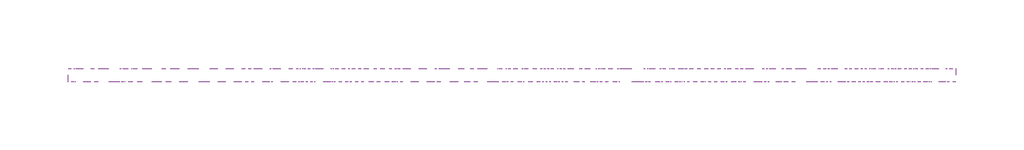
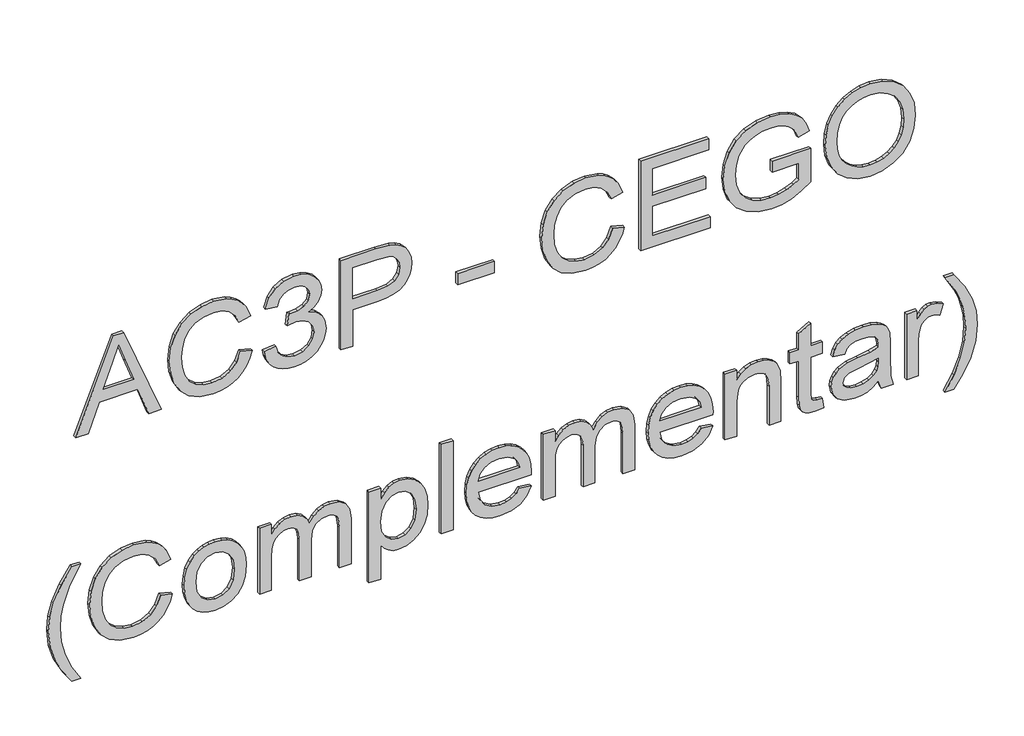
# One storey, part 8 of 12: 1 proxy.
"""IFC4 building model written with IfcOpenShell, lengths in millimetres."""

from ifc_helpers import new_model, si_unit, frame, origin, place, context, project, spatial, polyline, outline, extrude, element, save

model = new_model("IFC4")

# Units and contexts
model_context = context("Model", 3, world=origin())
ifc_project = project(units=[si_unit("LENGTHUNIT", "METRE", prefix="MILLI")], contexts=[model_context])

# Site, building, storey
site = spatial("IfcSite", under=ifc_project)
building = spatial("IfcBuilding", under=site)
storey = spatial("IfcBuildingStorey", under=building, Name="02 - Marelli - Planta Baixa - Painéis Cego", Elevation=12000.0)

# Proxy
placement = place(None, origin())
element("IfcBuildingElementProxy", 1, Name="300mm Arial", ObjectType="300mm Arial", at=placement, inside=storey, context=model_context, shape_type="SweptSolid", body=[
    extrude(outline(polyline([(17965.9244535, 37481.4076008), (17965.9244535, 37521.2124327), (18060.1022443, 37555.6461874), (18060.1022443, 37679.7695726), (17965.9244535, 37714.2769037), (17965.9244535, 37754.0817356), (18267.293384, 37633.7843232), (18267.293384, 37601.7050132), (17965.9244535, 37481.4076008)]), holes=[polyline([(18097.7733606, 37569.4785504), (18178.3395176, 37598.9826865), (18229.6222677, 37617.7446682), (18171.8647944, 37638.8610947), (18097.7733606, 37666.010786), (18097.7733606, 37569.4785504)])]), frame((0.0, 8778.3159498, 0.0), z_axis=(0.0, 1.0, 0.0), x_axis=(0.0, 0.0, 1.0)), (0.0, 0.0, 1.0), 10.0),
    extrude(outline(polyline([(18073.0516905, 38006.2280551), (18040.7884396, 37994.041964), (18017.5750857, 37974.2591097), (18003.5587816, 37948.0567146), (17998.8866803, 37916.6120011), (18002.3171799, 37889.6370538), (18012.6086787, 37864.6302752), (18029.8347531, 37843.771366), (18054.0689796, 37829.2400272), (18084.1617268, 37820.714362), (18118.9633635, 37817.8724736), (18147.3822477, 37820.2729036), (18174.9550032, 37827.4741937), (18199.3455795, 37840.5983838), (18218.2179258, 37860.7675142), (18230.3028494, 37887.3469884), (18234.3311572, 37919.7022098), (18230.6983225, 37947.7716061), (18219.7998184, 37970.617078), (18200.9550632, 37988.4593547), (18173.4834752, 38001.5191656), (18182.4597959, 38039.1902819), (18220.278065, 38022.5528186), (18235.6003501, 38010.7507044), (18248.5314022, 37996.626335), (18258.7999084, 37980.446425), (18266.1345557, 37962.4776888), (18272.0022735, 37921.1737378), (18267.4681279, 37883.3186805), (18253.8656912, 37848.7745612), (18231.526057, 37819.6475042), (18200.7803193, 37798.043634), (18162.8332915, 37784.6619265), (18118.8897871, 37780.2013573), (18077.2271512, 37784.1468917), (18038.3236302, 37795.9834949), (18005.2326447, 37815.370876), (17981.0076153, 37841.9687443), (17966.1635768, 37876.6692135), (17961.215564, 37920.3643974), (17962.8503396, 37942.786805), (17967.7546665, 37963.4065909), (17975.9285445, 37982.2237549), (17987.3719739, 37999.2382972), (18001.9286046, 38014.1145254), (18019.4420868, 38026.5167471), (18039.9124206, 38036.4449625), (18063.3396059, 38043.8991714), (18073.0516905, 38006.2280551)])), frame((0.0, 8778.3159498, 0.0), z_axis=(0.0, 1.0, 0.0), x_axis=(0.0, 0.0, 1.0)), (0.0, 0.0, 1.0), 10.0),
    extrude(outline(polyline([(18045.9755757, 38081.5702877), (18028.0827151, 38084.8214449), (18011.928097, 38090.8960963), (17997.5117213, 38099.7942421), (17984.8335881, 38111.5158821), (17974.5007025, 38125.4953979), (17967.12007, 38141.1671709), (17962.6916905, 38158.5312011), (17961.215564, 38177.5874885), (17962.9446094, 38198.6717253), (17968.1317455, 38217.8521728), (17976.7769724, 38235.128831), (17988.88029, 38250.5016999), (18003.4668111, 38263.1200523), (18019.5616484, 38272.1331612), (18037.1648019, 38277.5410266), (18056.2762716, 38279.3436483), (18083.2420218, 38275.7384048), (18105.2781533, 38264.9226741), (18121.5017493, 38247.4482794), (18131.029893, 38223.8670435), (18141.9008059, 38241.8196848), (18155.9722922, 38254.7691311), (18172.4901938, 38262.6050176), (18190.7003526, 38265.2169797), (18210.2440836, 38262.4670618), (18228.7025627, 38254.2173081), (18244.7238236, 38240.7712211), (18256.9558999, 38222.4323037), (18264.709013, 38200.6812807), (18267.293384, 38176.9988773), (18262.0510656, 38144.1102269), (18246.3241103, 38117.1076885), (18221.0690113, 38097.3708194), (18187.2422618, 38086.2791773), (18182.5333723, 38123.9502936), (18203.134764, 38130.6273518), (18217.8500438, 38142.4179697), (18226.6792117, 38158.5679893), (18229.6222677, 38178.3232525), (18226.7068029, 38198.0417274), (18217.9604084, 38213.7870768), (18204.7626419, 38224.1061668), (18188.4930606, 38227.5458634), (18168.9585267, 38222.8001857), (18155.2365283, 38208.5631525), (18147.1247303, 38188.384825), (18144.4207976, 38165.8152646), (18144.862256, 38159.7819999), (18107.1911397, 38155.5881452), (18111.311418, 38182.0020724), (18107.4578541, 38205.6936729), (18095.8971624, 38224.8235366), (18078.4503588, 38237.4602832), (18056.9384591, 38241.672532), (18034.2769282, 38237.423495), (18015.5885229, 38224.6763838), (18003.0621409, 38204.7371797), (17998.8866803, 38178.9118636), (18001.9217068, 38156.9033233), (18011.0267861, 38140.0267368), (18027.0112588, 38127.6750988), (18050.6844652, 38119.241404), (18045.9755757, 38081.5702877)])), frame((0.0, 8778.3159498, 0.0), z_axis=(0.0, 1.0, 0.0), x_axis=(0.0, 0.0, 1.0)), (0.0, 0.0, 1.0), 10.0),
    extrude(outline(polyline([(17965.9244535, 38326.4325437), (17965.9244535, 38364.10366), (18088.3555815, 38364.10366), (18088.3555815, 38440.6966914), (18090.0202476, 38469.8950255), (18095.0142456, 38494.2143247), (18103.3375758, 38513.6545888), (18114.990238, 38528.2158181), (18129.0479287, 38538.8223158), (18144.5863445, 38546.3983857), (18161.6054853, 38550.9440276), (18180.1053511, 38552.4592416), (18201.5620685, 38550.2151614), (18221.19777, 38543.4829209), (18237.8444303, 38533.0626634), (18250.334024, 38519.7545322), (18259.0620243, 38503.2274335), (18264.4239044, 38483.1502737), (18267.293384, 38438.1215175), (18267.293384, 38326.4325437), (17965.9244535, 38326.4325437)]), holes=[polyline([(18126.0266978, 38364.10366), (18229.6222677, 38364.10366), (18229.6222677, 38442.0210666), (18227.0470937, 38479.6921829), (18220.7195234, 38493.9200191), (18209.9773691, 38505.1128288), (18195.7035477, 38512.3693011), (18178.7809759, 38514.7881252), (18156.5057211, 38510.686241), (18139.8590609, 38498.3805883), (18129.4847886, 38476.3076685), (18126.0266978, 38442.9039834), (18126.0266978, 38364.10366)])]), frame((0.0, 8778.3159498, 0.0), z_axis=(0.0, 1.0, 0.0), x_axis=(0.0, 0.0, 1.0)), (0.0, 0.0, 1.0), 10.0),
    extrude(outline(polyline([(38816.1570557, 8778.3159498), (38698.4348172, 8778.3159498), (38698.4348172, 8788.3159498), (38816.1570557, 8788.3159498), (38816.1570557, 8778.3159498)])), frame((0.0, 0.0, 18055.3933548), z_axis=(0.0, 0.0, 1.0), x_axis=(1.0, 0.0, 0.0)), (0.0, 0.0, 1.0), 37.6711163),
    extrude(outline(polyline([(18073.0516905, 39192.8682188), (18040.7884396, 39180.6821277), (18017.5750857, 39160.8992734), (18003.5587816, 39134.6968783), (17998.8866803, 39103.2521647), (18002.3171799, 39076.2772174), (18012.6086787, 39051.2704388), (18029.8347531, 39030.4115297), (18054.0689796, 39015.8801909), (18084.1617268, 39007.3545256), (18118.9633635, 39004.5126372), (18147.3822477, 39006.9130672), (18174.9550032, 39014.1143573), (18199.3455795, 39027.2385475), (18218.2179258, 39047.4076779), (18230.3028494, 39073.987152), (18234.3311572, 39106.3423735), (18230.6983225, 39134.4117697), (18219.7998184, 39157.2572416), (18200.9550632, 39175.0995184), (18173.4834752, 39188.1593292), (18182.4597959, 39225.8304455), (18220.278065, 39209.1929823), (18235.6003501, 39197.390868), (18248.5314022, 39183.2664987), (18258.7999084, 39167.0865887), (18266.1345557, 39149.1178525), (18272.0022735, 39107.8139015), (18267.4681279, 39069.9588442), (18253.8656912, 39035.4147248), (18231.526057, 39006.2876679), (18200.7803193, 38984.6837977), (18162.8332915, 38971.3020901), (18118.8897871, 38966.8415209), (18077.2271512, 38970.7870553), (18038.3236302, 38982.6236585), (18005.2326447, 39002.0110397), (17981.0076153, 39028.6089079), (17966.1635768, 39063.3093771), (17961.215564, 39107.0045611), (17962.8503396, 39129.4269687), (17967.7546665, 39150.0467545), (17975.9285445, 39168.8639186), (17987.3719739, 39185.8784608), (18001.9286046, 39200.754689), (18019.4420868, 39213.1569108), (18039.9124206, 39223.0851261), (18063.3396059, 39230.5393351), (18073.0516905, 39192.8682188)])), frame((0.0, 8778.3159498, 0.0), z_axis=(0.0, 1.0, 0.0), x_axis=(0.0, 0.0, 1.0)), (0.0, 0.0, 1.0), 10.0),
    extrude(outline(polyline([(17965.9244535, 39282.33712), (17965.9244535, 39503.6549283), (18003.5955698, 39503.6549283), (18003.5955698, 39320.0082363), (18102.4822501, 39320.0082363), (18102.4822501, 39489.5282597), (18140.1533665, 39489.5282597), (18140.1533665, 39320.0082363), (18229.6222677, 39320.0082363), (18229.6222677, 39498.9460387), (18267.293384, 39498.9460387), (18267.293384, 39282.33712), (17965.9244535, 39282.33712)])), frame((0.0, 8778.3159498, 0.0), z_axis=(0.0, 1.0, 0.0), x_axis=(0.0, 0.0, 1.0)), (0.0, 0.0, 1.0), 10.0),
    extrude(outline(polyline([(18083.646692, 39701.4282889), (18083.646692, 39786.1883006), (18029.2001567, 39786.1883006), (18018.55917, 39770.1394485), (18008.5619768, 39748.0389377), (18001.3055044, 39722.5907007), (17998.8866803, 39696.4986702), (18002.0964507, 39666.9485489), (18011.7257619, 39639.0722907), (18027.967752, 39615.2519315), (18051.015559, 39597.8695072), (18080.6576508, 39587.2469146), (18116.6824952, 39583.7060504), (18147.4006418, 39586.6491064), (18175.83792, 39595.4782743), (18204.8638094, 39614.8656554), (18216.8015801, 39629.3050237), (18226.2009651, 39647.6807294), (18232.2986092, 39669.909999), (18234.3311572, 39695.910059), (18232.445762, 39718.1209344), (18226.7895763, 39738.2532766), (18217.9971966, 39755.1390602), (18206.7032194, 39767.6102598), (18191.7212251, 39777.0372359), (18171.8647944, 39784.790349), (18181.6504555, 39819.5184093), (18209.4899255, 39809.9258863), (18231.4984659, 39796.7465138), (18248.494614, 39778.9318282), (18261.2969075, 39755.4333658), (18269.325932, 39727.5295164), (18272.0022735, 39696.4986702), (18267.3853545, 39654.2290289), (18253.5345974, 39617.183312), (18230.1832877, 39586.768668), (18197.0647111, 39564.3922457), (18157.581776, 39550.624262), (18115.1373908, 39546.0349341), (18072.9965082, 39550.6426561), (18035.0126922, 39564.4658221), (18003.3472495, 39587.3296881), (17980.1614867, 39619.0595102), (17965.9520447, 39657.2548583), (17961.215564, 39699.5153025), (17964.1954082, 39731.8613269), (17973.1349406, 39763.4164051), (17987.9789791, 39794.1069605), (18008.6723414, 39823.8594169), (18121.3178083, 39823.8594169), (18121.3178083, 39701.4282889), (18083.646692, 39701.4282889)])), frame((0.0, 8778.3159498, 0.0), z_axis=(0.0, 1.0, 0.0), x_axis=(0.0, 0.0, 1.0)), (0.0, 0.0, 1.0), 10.0),
    extrude(outline(polyline([(18112.6357932, 39870.9483123), (18074.0909572, 39875.2525316), (18037.6246544, 39888.1651896), (18005.9316205, 39909.428769), (17981.7065911, 39938.7857522), (17966.3383208, 39974.4335175), (17961.215564, 40014.5694432), (17965.8508771, 40052.3785152), (17979.7568166, 40087.5204428), (18002.6758649, 40117.4844313), (18034.3505046, 40139.7596861), (18072.8125672, 40153.5828521), (18116.093884, 40158.1905741), (18158.8049836, 40153.8127784), (18196.7336173, 40140.6793911), (18228.3530748, 40119.1950826), (18252.1366458, 40089.764523), (18267.0358666, 40054.3190928), (18272.0022735, 40014.7901724), (18269.3581217, 39984.4996886), (18261.4256662, 39957.1246696), (18248.204907, 39932.6651155), (18229.6958441, 39911.1210261), (18206.5146799, 39893.5454638), (18179.2776166, 39880.9914907), (18147.9846544, 39873.4591069), (18112.6357932, 39870.9483123)]), holes=[polyline([(18112.2679112, 39908.6194286), (18142.8044161, 39910.5829987), (18168.6366299, 39916.4737092), (18189.7645528, 39926.2915599), (18206.1881846, 39940.036551), (18218.5007351, 39956.5038688), (18227.2954141, 39974.4886998), (18232.5722214, 39993.9910441), (18234.3311572, 40015.0109016), (18230.6799284, 40044.1747467), (18219.726242, 40070.3035655), (18202.1322856, 40091.9626179), (18178.5602467, 40107.7171644), (18149.7366924, 40117.3188844), (18116.3881896, 40120.5194578), (18089.8501021, 40118.6501574), (18066.5217851, 40113.0422562), (18046.4032385, 40103.6957543), (18029.4944623, 40090.6106516), (18016.1035577, 40074.6284782), (18006.5386258, 40056.5907641), (18000.7996667, 40036.4975094), (17998.8866803, 40014.348714), (18000.7812726, 39992.5723991), (18006.4650494, 39972.7136692), (18015.9380108, 39954.7725241), (18029.2001567, 39938.748964), (18045.759445, 39925.5672922), (18065.1238335, 39916.1518124), (18087.2933223, 39910.5025245), (18112.2679112, 39908.6194286)])]), frame((0.0, 8778.3159498, 0.0), z_axis=(0.0, 1.0, 0.0), x_axis=(0.0, 0.0, 1.0)), (0.0, 0.0, 1.0), 10.0),
    extrude(outline(polyline([(17149.3155348, 37469.4146478), (17149.3155348, 37497.667985), (17197.5540614, 37468.8260366), (17245.8109821, 37448.2246448), (17294.0862969, 37435.8638098), (17342.3800058, 37431.7435314), (17380.2534572, 37434.1163703), (17417.9429677, 37441.2348869), (17475.7740173, 37462.4248898), (17535.4444769, 37497.667985), (17535.4444769, 37469.4146478), (17484.934279, 37434.7233756), (17434.2033518, 37410.4063757), (17389.4137189, 37398.1559053), (17342.600735, 37394.0724151), (17289.2210575, 37399.5354628), (17237.68079, 37415.9246057), (17190.2791949, 37440.2232114), (17149.3155348, 37469.4146478)])), frame((0.0, 8778.3159498, 0.0), z_axis=(0.0, 1.0, 0.0), x_axis=(0.0, 0.0, 1.0)), (0.0, 0.0, 1.0), 10.0),
    extrude(outline(polyline([(17341.2027835, 37751.94802), (17308.9395325, 37739.761929), (17285.7261786, 37719.9790747), (17271.7098746, 37693.7766796), (17267.0377732, 37662.331966), (17270.4682728, 37635.3570187), (17280.7597717, 37610.3502401), (17297.9858461, 37589.491331), (17322.2200725, 37574.9599922), (17352.3128197, 37566.4343269), (17387.1144565, 37563.5924385), (17415.5333406, 37565.9928685), (17443.1060961, 37573.1941586), (17467.4966724, 37586.3183488), (17486.3690188, 37606.4874792), (17498.4539423, 37633.0669533), (17502.4822501, 37665.4221748), (17498.8494154, 37693.491571), (17487.9509113, 37716.3370429), (17469.1061561, 37734.1793197), (17441.6345681, 37747.2391305), (17450.6108888, 37784.9102468), (17488.4291579, 37768.2727836), (17503.751443, 37756.4706693), (17516.6824952, 37742.3463), (17526.9510013, 37726.16639), (17534.2856486, 37708.1976538), (17540.1533665, 37666.8937028), (17535.6192209, 37629.0386455), (17522.0167841, 37594.4945261), (17499.6771499, 37565.3674691), (17468.9314122, 37543.763599), (17430.9843844, 37530.3818914), (17387.0408801, 37525.9213222), (17345.3782441, 37529.8668566), (17306.4747231, 37541.7034598), (17273.3837376, 37561.0908409), (17249.1587083, 37587.6887092), (17234.3146698, 37622.3891784), (17229.3666569, 37666.0843624), (17231.0014325, 37688.50677), (17235.9057594, 37709.1265558), (17244.0796375, 37727.9437199), (17255.5230668, 37744.9582621), (17270.0796975, 37759.8344903), (17287.5931797, 37772.2367121), (17308.0635135, 37782.1649274), (17331.4906988, 37789.6191364), (17341.2027835, 37751.94802)])), frame((0.0, 8778.3159498, 0.0), z_axis=(0.0, 1.0, 0.0), x_axis=(0.0, 0.0, 1.0)), (0.0, 0.0, 1.0), 10.0),
    extrude(outline(polyline([(17344.7344506, 37827.2902527), (17318.4124939, 37828.9986047), (17295.3646869, 37834.1236607), (17275.5910296, 37842.6654208), (17259.0915221, 37854.6238849), (17246.0868936, 37869.350661), (17236.7978732, 37886.1973571), (17231.224461, 37905.1639733), (17229.3666569, 37926.2505094), (17232.7419742, 37952.8391806), (17242.8679261, 37977.2757421), (17259.1007192, 37997.8495427), (17280.7965599, 38012.849931), (17309.767267, 38022.0101927), (17347.8246594, 38025.0636133), (17372.7049786, 38023.3368672), (17394.7388108, 38018.1566288), (17413.9261561, 38009.5228982), (17430.2670145, 37997.4356754), (17443.3199275, 37982.6261259), (17452.6434368, 37965.825415), (17458.2375424, 37947.0335428), (17460.1022443, 37926.2505094), (17458.5709355, 37907.4241483), (17453.9770091, 37890.0877092), (17446.3204651, 37874.2411923), (17435.6013034, 37859.8845974), (17418.830483, 37845.6245716), (17398.095734, 37835.4388389), (17373.3970566, 37829.3273992), (17344.7344506, 37827.2902527)]), holes=[polyline([(17344.808027, 37864.961369), (17378.8830968, 37869.3207706), (17403.1173232, 37882.3989755), (17417.6026768, 37902.0806623), (17422.431128, 37926.2505094), (17417.5842827, 37950.1720361), (17403.0437468, 37969.8445258), (17379.0854319, 37983.0055042), (17345.9852494, 37987.392497), (17311.1468245, 37983.0330953), (17286.535519, 37969.9548904), (17271.9122097, 37950.3099918), (17267.0377732, 37926.2505094), (17271.8846185, 37902.0806623), (17286.4251544, 37882.3989755), (17310.7145631, 37869.3207706), (17344.808027, 37864.961369)])]), frame((0.0, 8778.3159498, 0.0), z_axis=(0.0, 1.0, 0.0), x_axis=(0.0, 0.0, 1.0)), (0.0, 0.0, 1.0), 10.0),
    extrude(outline(polyline([(17234.0755465, 38067.4436191), (17234.0755465, 38105.1147354), (17345.6909438, 38105.1147354), (17371.6082304, 38106.5494752), (17390.6461236, 38110.8536945), (17404.368122, 38118.3584872), (17414.3377241, 38129.3949471), (17420.407777, 38142.7674576), (17422.431128, 38157.2804023), (17419.3961015, 38174.359324), (17410.2910222, 38185.8648334), (17395.0974958, 38192.4039358), (17373.7971282, 38194.5836366), (17234.0755465, 38194.5836366), (17234.0755465, 38232.2547529), (17359.008272, 38232.2547529), (17387.7214617, 38235.94277), (17407.3479662, 38247.006821), (17418.6603375, 38263.6442842), (17422.431128, 38284.0525379), (17420.9596, 38295.6132296), (17416.5450161, 38305.5736346), (17409.7300021, 38313.3175506), (17401.0571841, 38318.2287752), (17369.6032735, 38321.7236542), (17234.0755465, 38321.7236542), (17234.0755465, 38359.3947705), (17385.7900813, 38359.3947705), (17418.7615051, 38355.0813541), (17441.8920855, 38342.1411049), (17455.5497046, 38321.1994223), (17460.1022443, 38292.8817058), (17457.366122, 38273.3563689), (17449.1577549, 38255.7624124), (17435.4771432, 38240.0998365), (17416.3242869, 38226.368641), (17434.7643719, 38218.1648725), (17448.5875379, 38205.6200965), (17457.2235677, 38188.8262834), (17460.1022443, 38167.8754038), (17457.27875, 38148.3224757), (17448.808267, 38131.0136279), (17435.702471, 38116.4455009), (17418.9730372, 38105.1147354), (17455.3933548, 38105.1147354), (17455.3933548, 38067.4436191), (17234.0755465, 38067.4436191)])), frame((0.0, 8778.3159498, 0.0), z_axis=(0.0, 1.0, 0.0), x_axis=(0.0, 0.0, 1.0)), (0.0, 0.0, 1.0), 10.0),
    extrude(outline(polyline([(17149.3155348, 38415.9014449), (17149.3155348, 38453.5725612), (17263.5061061, 38453.5725612), (17249.9956398, 38464.213548), (17239.0419534, 38477.4481027), (17231.785481, 38492.9083436), (17229.3666569, 38510.2263885), (17232.9810975, 38534.6445559), (17243.8244193, 38557.8671069), (17261.4459669, 38577.806311), (17285.3950848, 38592.374438), (17314.2094421, 38601.2863794), (17346.4267078, 38604.2570265), (17376.7217901, 38601.6266702), (17404.4784866, 38593.7356014), (17427.9861461, 38580.6757906), (17445.5341173, 38562.5392082), (17456.4602125, 38540.2639534), (17460.1022443, 38514.7881252), (17457.4994792, 38495.6582615), (17449.6911838, 38479.6186065), (17436.6773583, 38465.8598199), (17418.4580024, 38453.5725612), (17455.3933548, 38453.5725612), (17455.3933548, 38415.9014449), (17149.3155348, 38415.9014449)]), holes=[polyline([(17342.968617, 38453.5725612), (17377.1356573, 38457.9227658), (17402.0872537, 38470.9733796), (17417.3451594, 38489.670982), (17422.431128, 38510.9621525), (17417.6486621, 38532.1705495), (17403.3012642, 38550.1783732), (17379.3521464, 38562.4840259), (17345.7645202, 38566.5859102), (17310.7237602, 38562.3828584), (17286.2412134, 38549.773703), (17271.8386333, 38531.2784357), (17267.0377732, 38509.4170481), (17271.6730864, 38487.9051484), (17285.5790258, 38469.8697336), (17309.1970499, 38457.6468543), (17342.968617, 38453.5725612)])]), frame((0.0, 8778.3159498, 0.0), z_axis=(0.0, 1.0, 0.0), x_axis=(0.0, 0.0, 1.0)), (0.0, 0.0, 1.0), 10.0),
    extrude(outline(polyline([(38684.3081486, 8778.3159498), (38646.6370323, 8778.3159498), (38646.6370323, 8788.3159498), (38684.3081486, 8788.3159498), (38684.3081486, 8778.3159498)])), frame((0.0, 0.0, 17234.0755465), z_axis=(0.0, 0.0, 1.0), x_axis=(1.0, 0.0, 0.0)), (0.0, 0.0, 1.0), 301.3689304),
    extrude(outline(polyline([(17300.0, 38895.7667195), (17285.1191733, 38885.2085062), (17274.9104479, 38871.4865078), (17269.0059419, 38854.6007242), (17267.0377732, 38834.5511555), (17271.2868103, 38807.8889079), (17284.0339214, 38786.0275203), (17304.7640718, 38770.8799791), (17332.9622268, 38764.3592708), (17332.9622268, 38933.658565), (17343.1157698, 38933.8792942), (17369.3687487, 38932.0927672), (17392.5039277, 38926.7331864), (17412.5213067, 38917.8005517), (17429.4208859, 38905.2948631), (17442.8439802, 38889.9748773), (17452.4319047, 38872.5993508), (17458.1846594, 38853.1682837), (17460.1022443, 38831.6816759), (17458.1800609, 38809.4799975), (17452.4135106, 38789.4488228), (17442.8025935, 38771.588152), (17429.3473095, 38755.8979849), (17412.4109422, 38743.1186841), (17392.3567749, 38733.9906121), (17369.1848077, 38728.5137689), (17342.8950406, 38726.6881545), (17317.467497, 38728.4953748), (17295.0427901, 38733.9170357), (17275.62092, 38742.9531372), (17259.2018867, 38755.6036793), (17246.1489737, 38771.3352331), (17236.8254644, 38789.6143697), (17231.2313588, 38810.4410892), (17229.3666569, 38833.8153915), (17233.6892704, 38869.4723538), (17246.6571107, 38898.1579524), (17267.4608375, 38919.3939406), (17295.2911105, 38932.7020718), (17300.0, 38895.7667195)]), holes=[polyline([(17370.6333431, 38764.3592708), (17391.8693312, 38770.5488853), (17408.3412476, 38785.1446035), (17418.9086579, 38806.1414684), (17422.431128, 38831.5345231), (17418.0165441, 38859.1624609), (17404.7727922, 38881.125016), (17390.535759, 38891.1130122), (17370.6333431, 38896.2081778), (17370.6333431, 38764.3592708)])]), frame((0.0, 8778.3159498, 0.0), z_axis=(0.0, 1.0, 0.0), x_axis=(0.0, 0.0, 1.0)), (0.0, 0.0, 1.0), 10.0),
    extrude(outline(polyline([(17234.0755465, 38971.5504105), (17234.0755465, 39009.2215268), (17345.6909438, 39009.2215268), (17371.6082304, 39010.6562665), (17390.6461236, 39014.9604859), (17404.368122, 39022.4652786), (17414.3377241, 39033.5017384), (17420.407777, 39046.874249), (17422.431128, 39061.3871937), (17419.3961015, 39078.4661153), (17410.2910222, 39089.9716247), (17395.0974958, 39096.5107272), (17373.7971282, 39098.690428), (17234.0755465, 39098.690428), (17234.0755465, 39136.3615443), (17359.008272, 39136.3615443), (17387.7214617, 39140.0495613), (17407.3479662, 39151.1136123), (17418.6603375, 39167.7510755), (17422.431128, 39188.1593292), (17420.9596, 39199.7200209), (17416.5450161, 39209.6804259), (17409.7300021, 39217.4243419), (17401.0571841, 39222.3355666), (17369.6032735, 39225.8304455), (17234.0755465, 39225.8304455), (17234.0755465, 39263.5015618), (17385.7900813, 39263.5015618), (17418.7615051, 39259.1881454), (17441.8920855, 39246.2478963), (17455.5497046, 39225.3062137), (17460.1022443, 39196.9884971), (17457.366122, 39177.4631602), (17449.1577549, 39159.8692038), (17435.4771432, 39144.2066278), (17416.3242869, 39130.4754324), (17434.7643719, 39122.2716639), (17448.5875379, 39109.7268878), (17457.2235677, 39092.9330748), (17460.1022443, 39071.9821951), (17457.27875, 39052.4292671), (17448.808267, 39035.1204192), (17435.702471, 39020.5522922), (17418.9730372, 39009.2215268), (17455.3933548, 39009.2215268), (17455.3933548, 38971.5504105), (17234.0755465, 38971.5504105)])), frame((0.0, 8778.3159498, 0.0), z_axis=(0.0, 1.0, 0.0), x_axis=(0.0, 0.0, 1.0)), (0.0, 0.0, 1.0), 10.0),
    extrude(outline(polyline([(17300.0, 39474.9601327), (17285.1191733, 39464.4019194), (17274.9104479, 39450.679921), (17269.0059419, 39433.7941374), (17267.0377732, 39413.7445687), (17271.2868103, 39387.0823211), (17284.0339214, 39365.2209335), (17304.7640718, 39350.0733923), (17332.9622268, 39343.552684), (17332.9622268, 39512.8519782), (17343.1157698, 39513.0727074), (17369.3687487, 39511.2861804), (17392.5039277, 39505.9265996), (17412.5213067, 39496.9939649), (17429.4208859, 39484.4882763), (17442.8439802, 39469.1682905), (17452.4319047, 39451.792764), (17458.1846594, 39432.3616969), (17460.1022443, 39410.8750891), (17458.1800609, 39388.6734107), (17452.4135106, 39368.6422361), (17442.8025935, 39350.7815652), (17429.3473095, 39335.0913981), (17412.4109422, 39322.3120973), (17392.3567749, 39313.1840253), (17369.1848077, 39307.7071821), (17342.8950406, 39305.8815677), (17317.467497, 39307.688788), (17295.0427901, 39313.1104489), (17275.62092, 39322.1465504), (17259.2018867, 39334.7970925), (17246.1489737, 39350.5286463), (17236.8254644, 39368.8077829), (17231.2313588, 39389.6345024), (17229.3666569, 39413.0088047), (17233.6892704, 39448.6657671), (17246.6571107, 39477.3513656), (17267.4608375, 39498.5873538), (17295.2911105, 39511.895485), (17300.0, 39474.9601327)]), holes=[polyline([(17370.6333431, 39343.552684), (17391.8693312, 39349.7422985), (17408.3412476, 39364.3380167), (17418.9086579, 39385.3348816), (17422.431128, 39410.7279363), (17418.0165441, 39438.3558741), (17404.7727922, 39460.3184292), (17390.535759, 39470.3064254), (17370.6333431, 39475.4015911), (17370.6333431, 39343.552684)])]), frame((0.0, 8778.3159498, 0.0), z_axis=(0.0, 1.0, 0.0), x_axis=(0.0, 0.0, 1.0)), (0.0, 0.0, 1.0), 10.0),
    extrude(outline(polyline([(17234.0755465, 39550.7438237), (17234.0755465, 39588.41494), (17351.5034793, 39588.41494), (17386.2131456, 39592.7099623), (17398.5877762, 39598.0787401), (17407.6422718, 39605.5950291), (17418.7339139, 39624.4029961), (17422.431128, 39646.4667188), (17420.7848561, 39660.3634612), (17415.8460403, 39672.3288231), (17408.1481095, 39681.6638287), (17398.2244927, 39687.6695023), (17364.8943839, 39692.0105098), (17234.0755465, 39692.0105098), (17234.0755465, 39729.6816261), (17369.9711555, 39729.6816261), (17406.391473, 39727.6950633), (17434.0929872, 39716.4010861), (17444.6328064, 39706.3027253), (17452.9285454, 39692.1208744), (17458.3088196, 39675.1155292), (17460.1022443, 39656.5466855), (17457.8765582, 39635.5682147), (17451.1995, 39617.2201002), (17440.0710697, 39601.5023419), (17424.4912672, 39588.41494), (17455.3933548, 39588.41494), (17455.3933548, 39550.7438237), (17234.0755465, 39550.7438237)])), frame((0.0, 8778.3159498, 0.0), z_axis=(0.0, 1.0, 0.0), x_axis=(0.0, 0.0, 1.0)), (0.0, 0.0, 1.0), 10.0),
    extrude(outline(polyline([(17265.4926689, 39861.5305332), (17267.0377732, 39845.1229962), (17269.576159, 39832.2839146), (17276.4555523, 39825.8459797), (17295.8797217, 39823.8594169), (17417.7222385, 39823.8594169), (17417.7222385, 39861.5305332), (17455.3933548, 39861.5305332), (17455.3933548, 39823.8594169), (17531.3241986, 39823.8594169), (17509.1777025, 39786.1883006), (17455.3933548, 39786.1883006), (17455.3933548, 39757.9349633), (17417.7222385, 39757.9349633), (17417.7222385, 39786.1883006), (17294.7760757, 39786.1883006), (17267.7919313, 39787.3287348), (17252.0281878, 39790.7500373), (17242.849532, 39796.967243), (17235.6206508, 39806.4953867), (17230.9301554, 39819.9782618), (17229.3666569, 39838.0596619), (17232.9719005, 39866.2394227), (17265.4926689, 39861.5305332)])), frame((0.0, 8778.3159498, 0.0), z_axis=(0.0, 1.0, 0.0), x_axis=(0.0, 0.0, 1.0)), (0.0, 0.0, 1.0), 10.0),
    extrude(outline(polyline([(17262.3288837, 40040.4683356), (17234.0755465, 40049.8861147), (17234.0755465, 40087.557231), (17265.7501862, 40080.0524383), (17331.1963932, 40078.1394519), (17378.0645594, 40078.1394519), (17411.0267861, 40076.300042), (17425.1442577, 40071.7566993), (17436.5945848, 40064.7485473), (17445.856014, 40054.181137), (17453.406792, 40038.9600195), (17458.4283812, 40018.772495), (17460.1022443, 39993.3058639), (17458.207652, 39966.7539809), (17452.5238752, 39943.6050063), (17443.3452194, 39924.6774777), (17430.9659903, 39910.7899323), (17414.7791825, 39901.0318624), (17394.1777908, 39894.49276), (17389.4689012, 39932.1638763), (17405.1314772, 39939.6502749), (17415.1838527, 39950.3372468), (17420.6193092, 39966.0090198), (17422.431128, 39988.4498215), (17419.7088012, 40012.693245), (17411.5418209, 40030.0940634), (17400.5421493, 40037.8747676), (17383.7299421, 40040.4683356), (17375.3422326, 40040.2476064), (17368.3524747, 40013.429009), (17362.3927864, 39974.9117641), (17356.7274037, 39942.3174193), (17344.3665686, 39915.9402803), (17334.8752131, 39905.3360818), (17322.7351073, 39896.9943575), (17308.5532564, 39891.5864922), (17292.9366657, 39889.7838704), (17267.6079903, 39894.5571393), (17247.2457219, 39908.876946), (17233.8364232, 39932.0994969), (17229.3666569, 39963.5809987), (17231.224461, 39984.4491048), (17236.7978732, 40003.9376535), (17246.896234, 40022.469709), (17262.3288837, 40040.4683356)]), holes=[polyline([(17337.6711163, 40040.4683356), (17327.0025384, 40040.2476064), (17310.0799667, 40038.7576844), (17297.8662844, 40034.2879181), (17286.0112871, 40024.2079515), (17276.0508821, 40009.7134008), (17269.2910505, 39991.8343359), (17267.0377732, 39971.6008261), (17269.0795183, 39952.5169476), (17275.2047535, 39938.6753876), (17284.3834093, 39930.2600869), (17295.5854161, 39927.4549867), (17310.0799667, 39932.6053347), (17320.0127805, 39947.2838263), (17326.1196217, 39979.69423), (17337.6711163, 40040.4683356)])]), frame((0.0, 8778.3159498, 0.0), z_axis=(0.0, 1.0, 0.0), x_axis=(0.0, 0.0, 1.0)), (0.0, 0.0, 1.0), 10.0),
    extrude(outline(polyline([(17234.0755465, 40129.9372369), (17234.0755465, 40167.6083532), (17350.3998333, 40167.6083532), (17373.3556698, 40169.1350635), (17394.39852, 40173.7151943), (17406.1339556, 40179.1690449), (17414.9999117, 40187.2900399), (17420.5733239, 40197.3424154), (17422.431128, 40208.5904074), (17420.4997475, 40221.8341593), (17414.7056061, 40235.0779111), (17448.4771733, 40247.6594753), (17457.1959765, 40228.603188), (17460.1022443, 40209.8412062), (17458.2812284, 40197.5539476), (17452.8181808, 40186.2967585), (17441.6345681, 40175.0763577), (17422.6518572, 40162.8994636), (17455.3933548, 40162.8994636), (17455.3933548, 40129.9372369), (17234.0755465, 40129.9372369)])), frame((0.0, 8778.3159498, 0.0), z_axis=(0.0, 1.0, 0.0), x_axis=(0.0, 0.0, 1.0)), (0.0, 0.0, 1.0), 10.0),
    extrude(outline(polyline([(17149.3155348, 40280.6217021), (17190.2791949, 40309.6751827), (17237.68079, 40334.0013796), (17289.2210575, 40350.4732959), (17342.600735, 40355.9639347), (17389.4137189, 40351.8804446), (17434.2033518, 40339.6299741), (17484.934279, 40315.3129742), (17535.4444769, 40280.6217021), (17535.4444769, 40252.3683649), (17475.1854061, 40287.8321892), (17446.8400984, 40299.8067481), (17417.2807801, 40308.8014629), (17379.9775458, 40315.9199795), (17342.3800058, 40318.2928184), (17294.0862969, 40314.1725401), (17245.8109821, 40301.811705), (17197.5540614, 40281.2103133), (17149.3155348, 40252.3683649), (17149.3155348, 40280.6217021)])), frame((0.0, 8778.3159498, 0.0), z_axis=(0.0, 1.0, 0.0), x_axis=(0.0, 0.0, 1.0)), (0.0, 0.0, 1.0), 10.0),
])

save(model, "model.ifc")
